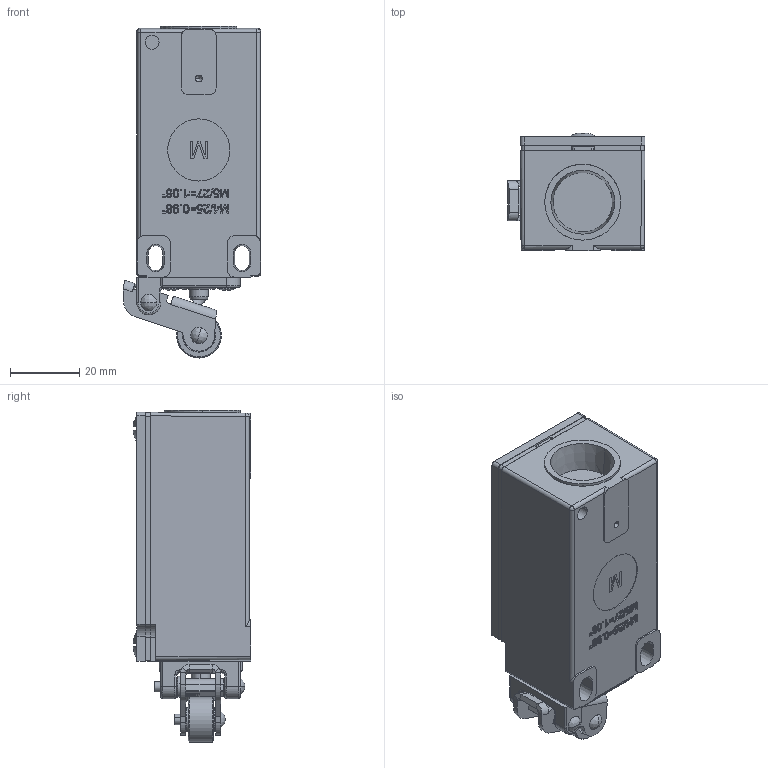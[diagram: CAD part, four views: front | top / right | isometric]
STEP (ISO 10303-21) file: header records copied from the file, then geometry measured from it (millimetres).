
FILE_DESCRIPTION((''),'2;1');
FILE_NAME('6021370629_SW0002','2025-02-19T06:44:17',('Hartwig.Bicknese'),(''),'CREO PARAMETRIC BY PTC INC, 2022124','CREO PARAMETRIC BY PTC INC, 2022124','');
FILE_SCHEMA(('AUTOMOTIVE_DESIGN { 1 0 10303 214 1 1 1 1 }'));
Length unit declared in the file: millimetre
Products named in the file (1): 6021370629_SW0002
Bounding box: 39.94 x 34.02 x 96.12 mm (x, y, z)
Volume: 83788 mm3; surface area: 18781.9 mm2
Topology: 3 solids, 3 shells, 1027 faces, 2577 edges, 1578 vertices
Faces by surface type: plane 539, extrusion 211, cylinder 140, cone 85, torus 26, sphere 16, bspline 10
Entity records: 49469 total; most frequent: CARTESIAN_POINT 9436, ORIENTED_EDGE 5074, DIRECTION 4318, PRESENTATION_STYLE_ASSIGNMENT 3778, STYLED_ITEM 2751, CURVE_STYLE 2748, EDGE_CURVE 2537, VECTOR 1776
